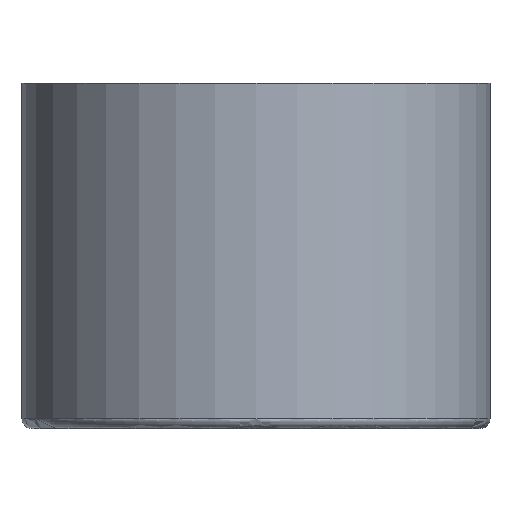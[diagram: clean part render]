
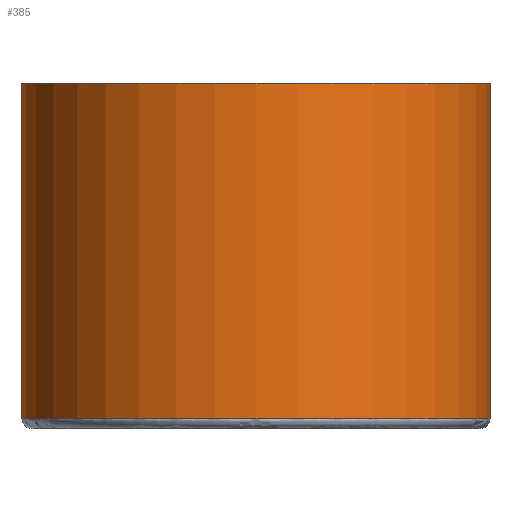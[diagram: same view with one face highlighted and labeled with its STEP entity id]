
A CAD part, front view. The second image highlights one B-rep face of the part: STEP entity #385.
In plain terms, the highlighted cylindrical face has radius 29.3 mm (diameter 58.6 mm), a partial arc.
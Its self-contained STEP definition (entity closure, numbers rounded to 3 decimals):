
#36 = LINE ( 'NONE', #36169, #18540 ) ;
#385 = ADVANCED_FACE ( 'NONE', ( #3731 ), #8967, .T. ) ;
#1710 = ORIENTED_EDGE ( 'NONE', *, *, #36404, .T. ) ;
#2231 = CARTESIAN_POINT ( 'NONE',  ( 29.3, 0., 43.2 ) ) ;
#2442 = DIRECTION ( 'NONE',  ( 0., 0., -1. ) ) ;
#2939 = DIRECTION ( 'NONE',  ( 1., 0., 0. ) ) ;
#3731 = FACE_OUTER_BOUND ( 'NONE', #36511, .T. ) ;
#4547 = EDGE_CURVE ( 'NONE', #14610, #33576, #24077, .T. ) ;
#4719 = AXIS2_PLACEMENT_3D ( 'NONE', #30740, #19970, #5550 ) ;
#5518 = CARTESIAN_POINT ( 'NONE',  ( 0., 0., 43.2 ) ) ;
#5550 = DIRECTION ( 'NONE',  ( 1., 0., 0. ) ) ;
#8967 = CYLINDRICAL_SURFACE ( 'NONE', #10275, 29.3 ) ;
#9189 = VERTEX_POINT ( 'NONE', #17507 ) ;
#10275 = AXIS2_PLACEMENT_3D ( 'NONE', #29129, #28637, #21409 ) ;
#13891 = VECTOR ( 'NONE', #19015, 1000. ) ;
#14610 = VERTEX_POINT ( 'NONE', #30540 ) ;
#15099 = ORIENTED_EDGE ( 'NONE', *, *, #19208, .T. ) ;
#17507 = CARTESIAN_POINT ( 'NONE',  ( 29.3, 0., 1.2 ) ) ;
#18540 = VECTOR ( 'NONE', #2442, 1000. ) ;
#19015 = DIRECTION ( 'NONE',  ( 0., 0., -1. ) ) ;
#19208 = EDGE_CURVE ( 'NONE', #14610, #21900, #36, .T. ) ;
#19810 = DIRECTION ( 'NONE',  ( 0., 0., 1. ) ) ;
#19970 = DIRECTION ( 'NONE',  ( 0., 0., 1. ) ) ;
#20935 = EDGE_CURVE ( 'NONE', #33576, #9189, #31884, .T. ) ;
#21409 = DIRECTION ( 'NONE',  ( -1., 0., 0. ) ) ;
#21900 = VERTEX_POINT ( 'NONE', #31310 ) ;
#23311 = ORIENTED_EDGE ( 'NONE', *, *, #4547, .F. ) ;
#23894 = AXIS2_PLACEMENT_3D ( 'NONE', #5518, #19810, #2939 ) ;
#24077 = CIRCLE ( 'NONE', #23894, 29.3 ) ;
#27734 = CIRCLE ( 'NONE', #4719, 29.3 ) ;
#28019 = ORIENTED_EDGE ( 'NONE', *, *, #20935, .F. ) ;
#28637 = DIRECTION ( 'NONE',  ( 0., 0., -1. ) ) ;
#29129 = CARTESIAN_POINT ( 'NONE',  ( 0., 0., 43.2 ) ) ;
#30540 = CARTESIAN_POINT ( 'NONE',  ( -29.3, 0., 43.2 ) ) ;
#30740 = CARTESIAN_POINT ( 'NONE',  ( 0., 0., 1.2 ) ) ;
#31310 = CARTESIAN_POINT ( 'NONE',  ( -29.3, 0., 1.2 ) ) ;
#31884 = LINE ( 'NONE', #2231, #13891 ) ;
#32357 = CARTESIAN_POINT ( 'NONE',  ( 29.3, 0., 43.2 ) ) ;
#33576 = VERTEX_POINT ( 'NONE', #32357 ) ;
#36169 = CARTESIAN_POINT ( 'NONE',  ( -29.3, 0., 43.2 ) ) ;
#36404 = EDGE_CURVE ( 'NONE', #21900, #9189, #27734, .T. ) ;
#36511 = EDGE_LOOP ( 'NONE', ( #28019, #23311, #15099, #1710 ) ) ;
